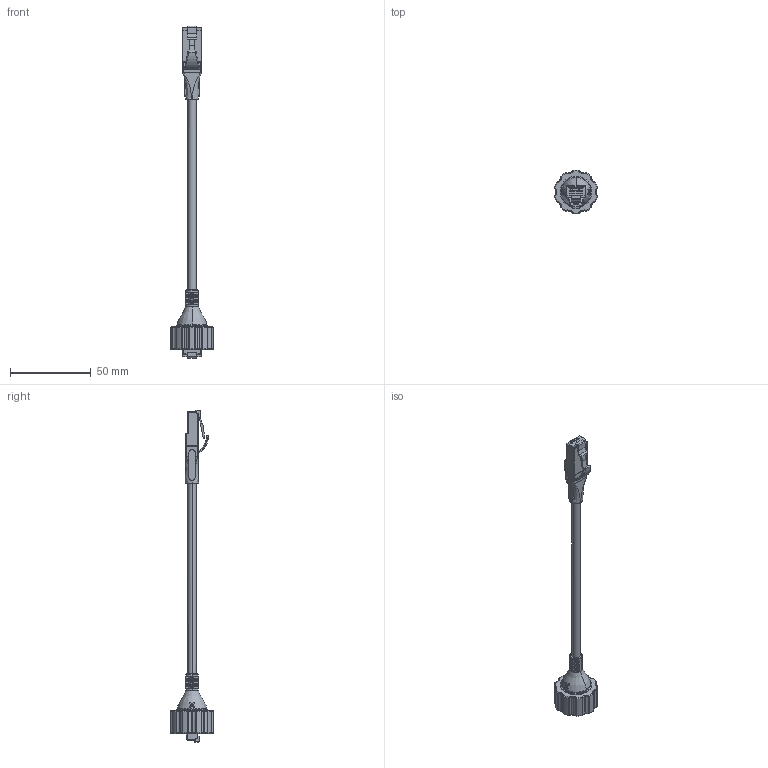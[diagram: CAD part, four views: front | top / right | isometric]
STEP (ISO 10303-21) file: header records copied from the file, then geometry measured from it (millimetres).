
FILE_DESCRIPTION (( 'STEP AP214' ), '1' );
FILE_NAME ('10078128_000.STEP', '2023-10-27T08:12:57', ( '' ), ( '' ), 'SwSTEP 2.0', 'SolidWorks 2022', '' );
FILE_SCHEMA (( 'AUTOMOTIVE_DESIGN' ));
Length unit declared in the file: millimetre
Products named in the file (1): 10078128_000
Bounding box: 26.64 x 27.08 x 205.51 mm (x, y, z)
Surface area: 11770.3 mm2 (no closed solid volume)
Topology: 0 solids, 3 shells, 1226 faces, 3396 edges, 2134 vertices
Faces by surface type: plane 552, cylinder 328, cone 143, bspline 139, torus 56, sphere 8
Entity records: 56771 total; most frequent: CARTESIAN_POINT 20603, ORIENTED_EDGE 6664, DIRECTION 5618, EDGE_CURVE 3332, VERTEX_POINT 2126, VECTOR 1956, LINE 1956, AXIS2_PLACEMENT_3D 1831
